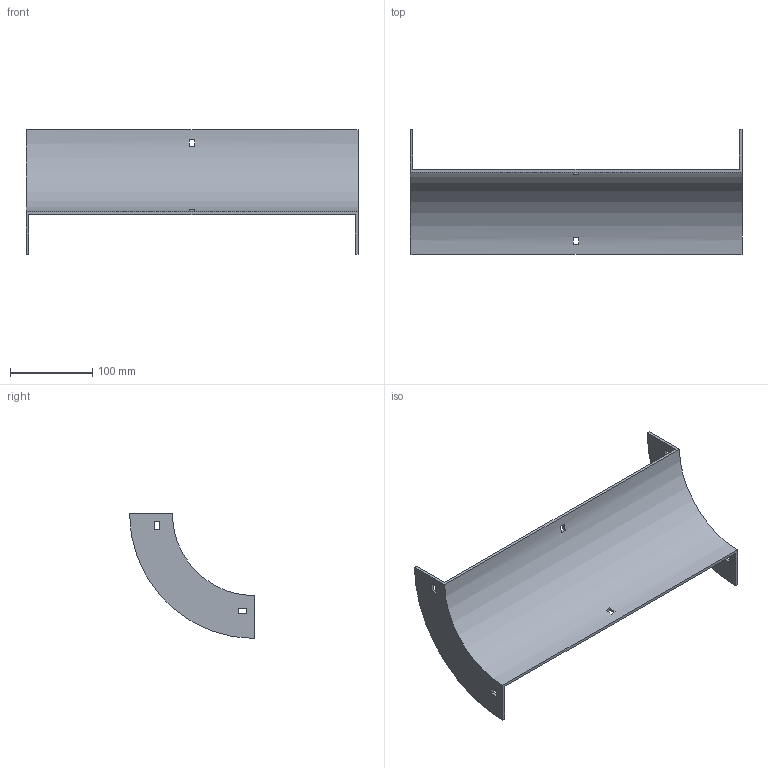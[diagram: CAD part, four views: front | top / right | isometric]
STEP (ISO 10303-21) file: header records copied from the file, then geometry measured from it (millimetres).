
FILE_DESCRIPTION (( 'STEP AP214' ), '1' );
FILE_NAME ('33B1B400.step', '2025-02-21T09:31:39', ( '' ), ( '' ), 'SwSTEP 2.0', 'SolidWorks 2023', '' );
FILE_SCHEMA (( 'AUTOMOTIVE_DESIGN' ));
Length unit declared in the file: millimetre
Products named in the file (1): 33B1B400
Bounding box: 404 x 152 x 152 mm (x, y, z)
Volume: 292729.6 mm3; surface area: 173129.2 mm2
Topology: 1 solids, 1 shells, 34 faces, 96 edges, 64 vertices
Faces by surface type: plane 30, cylinder 4
Entity records: 1143 total; most frequent: CARTESIAN_POINT 195, ORIENTED_EDGE 192, DIRECTION 182, EDGE_CURVE 96, VECTOR 80, LINE 80, VERTEX_POINT 64, AXIS2_PLACEMENT_3D 51
